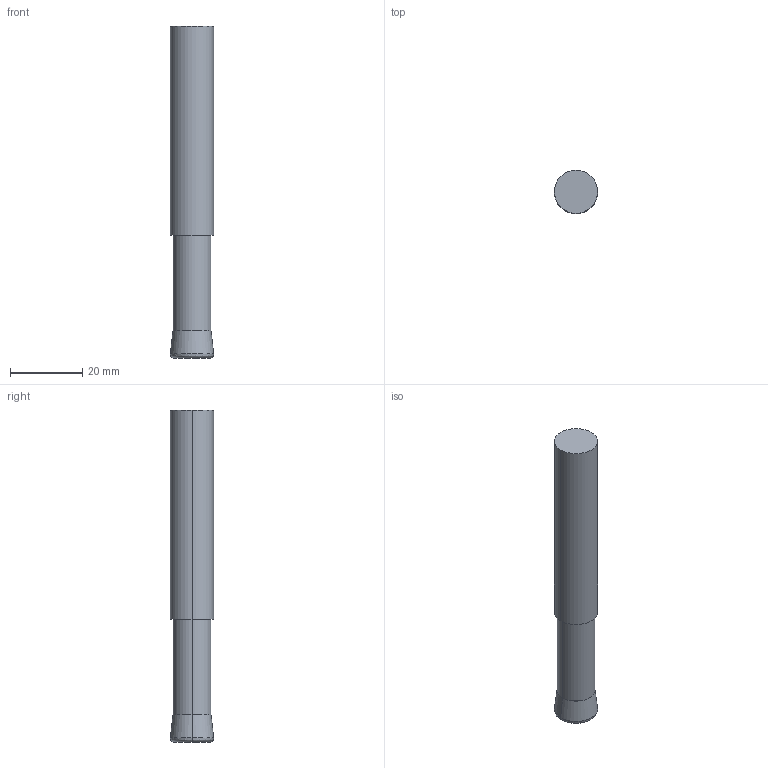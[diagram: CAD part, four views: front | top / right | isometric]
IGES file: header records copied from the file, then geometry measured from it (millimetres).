
Start section: 3D InterOp IGES (v. 2020 1.0.1), Spatial Corp. Copyright (c) 1999-2017.
Global section: file name: WZT1702_12_92.igs; native system: Spatial Corp.; preprocessor: 3D InterOp GENERIC/IGES 3.0; author: Noname; organization: Noname; date: 20201007.095437; units: metre
Bounding box: 12.01 x 12 x 92 mm (x, y, z)
Surface area: 3567.1 mm2 (no closed solid volume)
Topology: 0 solids, 0 shells, 12 faces, 44 edges, 44 vertices
Faces by surface type: revolution 8, extrusion 4
